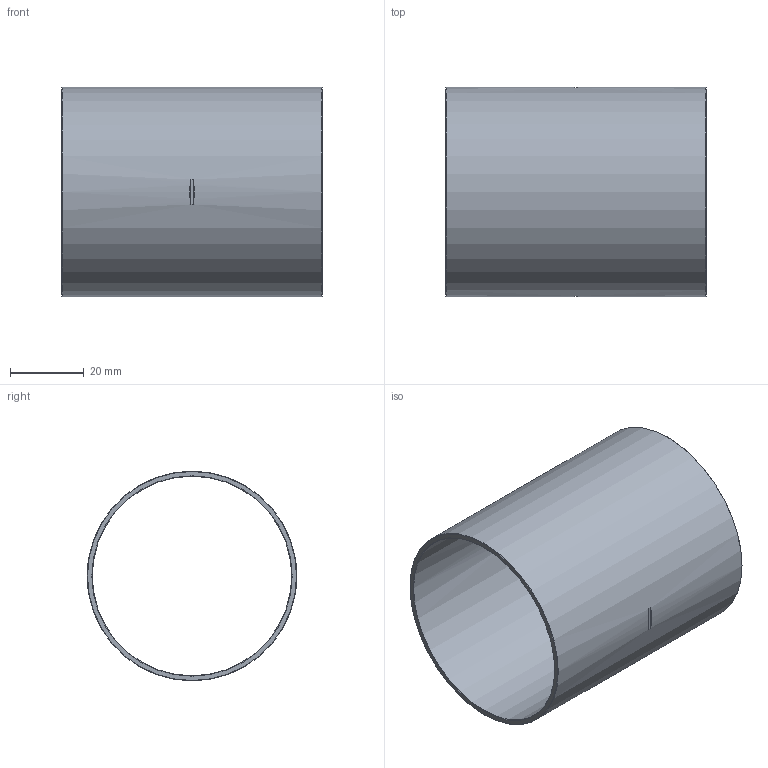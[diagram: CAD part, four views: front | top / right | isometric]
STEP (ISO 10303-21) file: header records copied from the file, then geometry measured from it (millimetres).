
FILE_DESCRIPTION((''),'2;1');
FILE_NAME('C:\brol\24\1527054.stp','2013-06-27T15:13:09',('vdvijverd'),(''),'Autodesk Inventor 2009','Autodesk Inventor 2009','');
FILE_SCHEMA(('AUTOMOTIVE_DESIGN { 1 0 10303 214 1 1 1 1 }'));
Length unit declared in the file: millimetre
Products named in the file (1): 1527054
Bounding box: 70.5 x 56.74 x 56.74 mm (x, y, z)
Volume: 16799.5 mm3; surface area: 24965.1 mm2
Topology: 1 solids, 1 shells, 36 faces, 96 edges, 64 vertices
Faces by surface type: bspline 14, cylinder 10, plane 8, cone 4
Full cylindrical faces by diameter (mm): 54 x1, 56.74 x1
Entity records: 1442 total; most frequent: CARTESIAN_POINT 631, ORIENTED_EDGE 176, DIRECTION 126, EDGE_CURVE 88, VERTEX_POINT 64, EDGE_LOOP 48, AXIS2_PLACEMENT_3D 47, FACE_OUTER_BOUND 36
